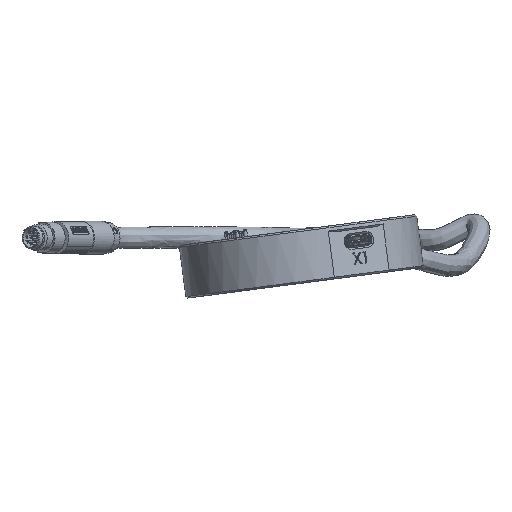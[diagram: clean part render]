
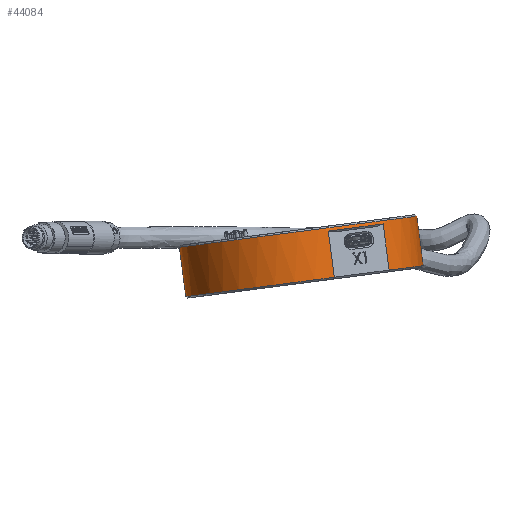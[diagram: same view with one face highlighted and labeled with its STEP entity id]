
A CAD part, left-side view. The second image highlights one B-rep face of the part: STEP entity #44084.
In plain terms, the highlighted cylindrical face has radius 36 mm (diameter 72 mm), a partial arc.
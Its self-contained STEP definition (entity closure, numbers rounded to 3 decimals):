
#788 = ORIENTED_EDGE ( 'NONE', *, *, #3607, .F. ) ;
#1330 = DIRECTION ( 'NONE',  ( 0., 0.992, -0.13 ) ) ;
#1893 = ORIENTED_EDGE ( 'NONE', *, *, #21442, .T. ) ;
#1981 = EDGE_CURVE ( 'NONE', #10825, #9871, #41374, .T. ) ;
#3218 = EDGE_CURVE ( 'NONE', #31407, #9871, #41868, .T. ) ;
#3607 = EDGE_CURVE ( 'NONE', #32829, #12023, #34005, .T. ) ;
#5423 = DIRECTION ( 'NONE',  ( 0., 0.13, 0.992 ) ) ;
#5678 = VECTOR ( 'NONE', #15762, 1000. ) ;
#6609 = CARTESIAN_POINT ( 'NONE',  ( -25.258, -27.444, -12.046 ) ) ;
#7526 = CARTESIAN_POINT ( 'NONE',  ( 35.313, 4.933, -16.276 ) ) ;
#7554 = CARTESIAN_POINT ( 'NONE',  ( 0., 0., 0. ) ) ;
#7995 = AXIS2_PLACEMENT_3D ( 'NONE', #19505, #41012, #1330 ) ;
#8099 = AXIS2_PLACEMENT_3D ( 'NONE', #30683, #5423, #20208 ) ;
#9147 = EDGE_LOOP ( 'NONE', ( #788, #42060, #30056, #18593, #41373, #1893, #21491, #32700 ) ) ;
#9871 = VERTEX_POINT ( 'NONE', #36243 ) ;
#10322 = EDGE_CURVE ( 'NONE', #24176, #41593, #34171, .T. ) ;
#10825 = VERTEX_POINT ( 'NONE', #6609 ) ;
#11859 = EDGE_CURVE ( 'NONE', #32829, #20522, #28562, .T. ) ;
#11909 = CIRCLE ( 'NONE', #8099, 36. ) ;
#12023 = VERTEX_POINT ( 'NONE', #20058 ) ;
#12321 = DIRECTION ( 'NONE',  ( 0., -0.13, -0.992 ) ) ;
#14348 = CARTESIAN_POINT ( 'NONE',  ( 0., -0.065, -0.496 ) ) ;
#15762 = DIRECTION ( 'NONE',  ( 0., -0.13, -0.992 ) ) ;
#16336 = CARTESIAN_POINT ( 'NONE',  ( 35.313, -7.006, 0.411 ) ) ;
#17534 = VECTOR ( 'NONE', #12321, 1000. ) ;
#18530 = CYLINDRICAL_SURFACE ( 'NONE', #38693, 36. ) ;
#18593 = ORIENTED_EDGE ( 'NONE', *, *, #1981, .T. ) ;
#19335 = LINE ( 'NONE', #33860, #5678 ) ;
#19505 = CARTESIAN_POINT ( 'NONE',  ( 0., -0.194, -1.487 ) ) ;
#20058 = CARTESIAN_POINT ( 'NONE',  ( -34.845, -10.979, -14.197 ) ) ;
#20208 = DIRECTION ( 'NONE',  ( 0., -0.992, 0.13 ) ) ;
#20522 = VERTEX_POINT ( 'NONE', #42160 ) ;
#20757 = AXIS2_PLACEMENT_3D ( 'NONE', #31858, #46759, #46521 ) ;
#21442 = EDGE_CURVE ( 'NONE', #31407, #24176, #22323, .T. ) ;
#21491 = ORIENTED_EDGE ( 'NONE', *, *, #10322, .T. ) ;
#21519 = DIRECTION ( 'NONE',  ( 0., -0.13, -0.992 ) ) ;
#22029 = CARTESIAN_POINT ( 'NONE',  ( 35.313, 6.876, -1.403 ) ) ;
#22118 = DIRECTION ( 'NONE',  ( 0., -0.13, -0.992 ) ) ;
#22323 = CIRCLE ( 'NONE', #33719, 36. ) ;
#23469 = CARTESIAN_POINT ( 'NONE',  ( 35.313, 7.33, 2.068 ) ) ;
#23877 = EDGE_CURVE ( 'NONE', #20522, #10825, #19335, .T. ) ;
#24176 = VERTEX_POINT ( 'NONE', #22029 ) ;
#24429 = DIRECTION ( 'NONE',  ( 0., -0.13, -0.992 ) ) ;
#24482 = VECTOR ( 'NONE', #27279, 1000. ) ;
#24919 = EDGE_CURVE ( 'NONE', #41593, #12023, #11909, .T. ) ;
#27279 = DIRECTION ( 'NONE',  ( 0., -0.13, -0.992 ) ) ;
#28562 = CIRCLE ( 'NONE', #7995, 36. ) ;
#29248 = FACE_OUTER_BOUND ( 'NONE', #9147, .T. ) ;
#29321 = VECTOR ( 'NONE', #24429, 1000. ) ;
#30056 = ORIENTED_EDGE ( 'NONE', *, *, #23877, .T. ) ;
#30683 = CARTESIAN_POINT ( 'NONE',  ( 0., -2.008, -15.369 ) ) ;
#31407 = VERTEX_POINT ( 'NONE', #16336 ) ;
#31858 = CARTESIAN_POINT ( 'NONE',  ( 0., -2.008, -15.369 ) ) ;
#32700 = ORIENTED_EDGE ( 'NONE', *, *, #24919, .T. ) ;
#32829 = VERTEX_POINT ( 'NONE', #34311 ) ;
#33719 = AXIS2_PLACEMENT_3D ( 'NONE', #14348, #21519, #43032 ) ;
#33860 = CARTESIAN_POINT ( 'NONE',  ( -25.258, -25.695, 1.34 ) ) ;
#34005 = LINE ( 'NONE', #45067, #17534 ) ;
#34171 = LINE ( 'NONE', #23469, #24482 ) ;
#34311 = CARTESIAN_POINT ( 'NONE',  ( -34.845, -9.166, -0.315 ) ) ;
#36243 = CARTESIAN_POINT ( 'NONE',  ( 35.313, -8.949, -14.463 ) ) ;
#38693 = AXIS2_PLACEMENT_3D ( 'NONE', #7554, #22118, #47246 ) ;
#41012 = DIRECTION ( 'NONE',  ( 0., 0.13, 0.992 ) ) ;
#41373 = ORIENTED_EDGE ( 'NONE', *, *, #3218, .F. ) ;
#41374 = CIRCLE ( 'NONE', #20757, 36. ) ;
#41593 = VERTEX_POINT ( 'NONE', #7526 ) ;
#41868 = LINE ( 'NONE', #45964, #29321 ) ;
#42060 = ORIENTED_EDGE ( 'NONE', *, *, #11859, .T. ) ;
#42160 = CARTESIAN_POINT ( 'NONE',  ( -25.258, -25.631, 1.836 ) ) ;
#43032 = DIRECTION ( 'NONE',  ( 0., -0.992, 0.13 ) ) ;
#44084 = ADVANCED_FACE ( 'NONE', ( #29248 ), #18530, .T. ) ;
#45067 = CARTESIAN_POINT ( 'NONE',  ( -34.845, -9.23, -0.811 ) ) ;
#45964 = CARTESIAN_POINT ( 'NONE',  ( 35.313, -6.552, 3.882 ) ) ;
#46521 = DIRECTION ( 'NONE',  ( 0., -0.992, 0.13 ) ) ;
#46759 = DIRECTION ( 'NONE',  ( 0., 0.13, 0.992 ) ) ;
#47246 = DIRECTION ( 'NONE',  ( 0., 0.992, -0.13 ) ) ;
